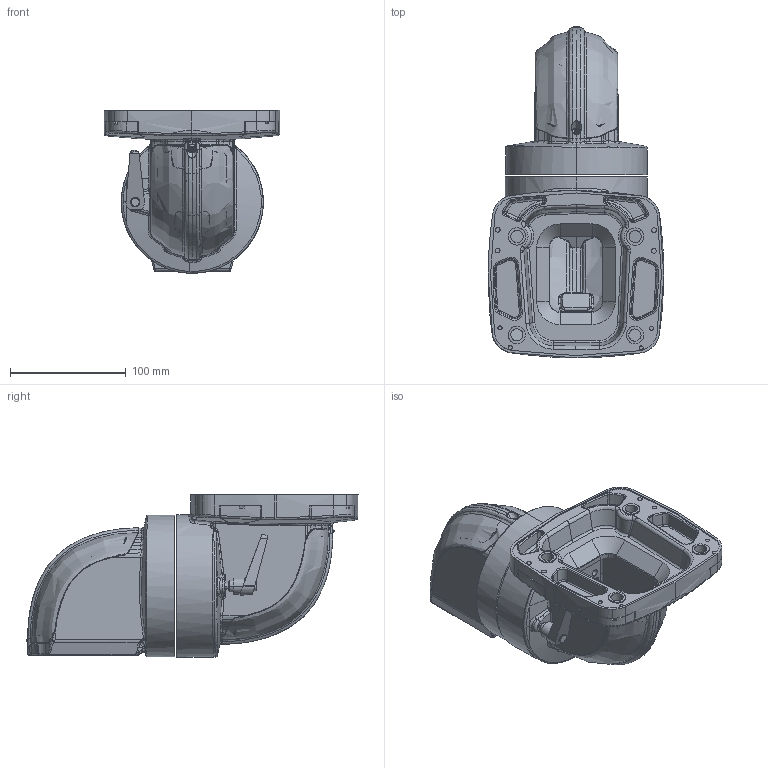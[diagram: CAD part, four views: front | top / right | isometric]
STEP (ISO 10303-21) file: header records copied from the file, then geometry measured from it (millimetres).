
FILE_DESCRIPTION (( 'STEP AP203' ), '1' );
FILE_NAME ('TP.060.8234.STEP', '2026-09-30T09:57:38', ( '' ), ( '' ), 'SwSTEP 2.0', 'SolidWorks 2015', '' );
FILE_SCHEMA (( 'CONFIG_CONTROL_DESIGN' ));
Length unit declared in the file: millimetre
Products named in the file (12): TP.060.800; TP.060.800(3); TP.060.Kapak; TP.060.800(4); TP.060.800(2); TP.060.200; TP.060.800(1); TP.060.Serrated Washer; TP.060.8234; TP.060.200_1; kapak vida
Assembly tree (15 placements, depth 3):
  TP.060.8234
    TP.060.800
      TP.060.800(1)
      TP.060.800
      TP.060.800(2)
      TP.060.800(3)
      TP.060.800(4)
      TP.060.Kapak
    TP.060.200_1
      TP.060.200
      TP.060.Kapak
    TP.060.Serrated Washer
    kapak vida  x4
Bounding box: 151.58 x 286.73 x 140.79 mm (x, y, z)
Volume: 520454.8 mm3; surface area: 276194.5 mm2
Topology: 12 solids, 16 shells, 5802 faces, 14221 edges, 8454 vertices
Faces by surface type: bspline 3735, cylinder 691, plane 639, torus 336, cone 271, sphere 130
Entity records: 328729 total; most frequent: CARTESIAN_POINT 239468, ORIENTED_EDGE 23395, EDGE_CURVE 11704, DIRECTION 9057, B_SPLINE_CURVE_WITH_KNOTS 7814, VERTEX_POINT 6992, EDGE_LOOP 4911, FACE_OUTER_BOUND 4780
